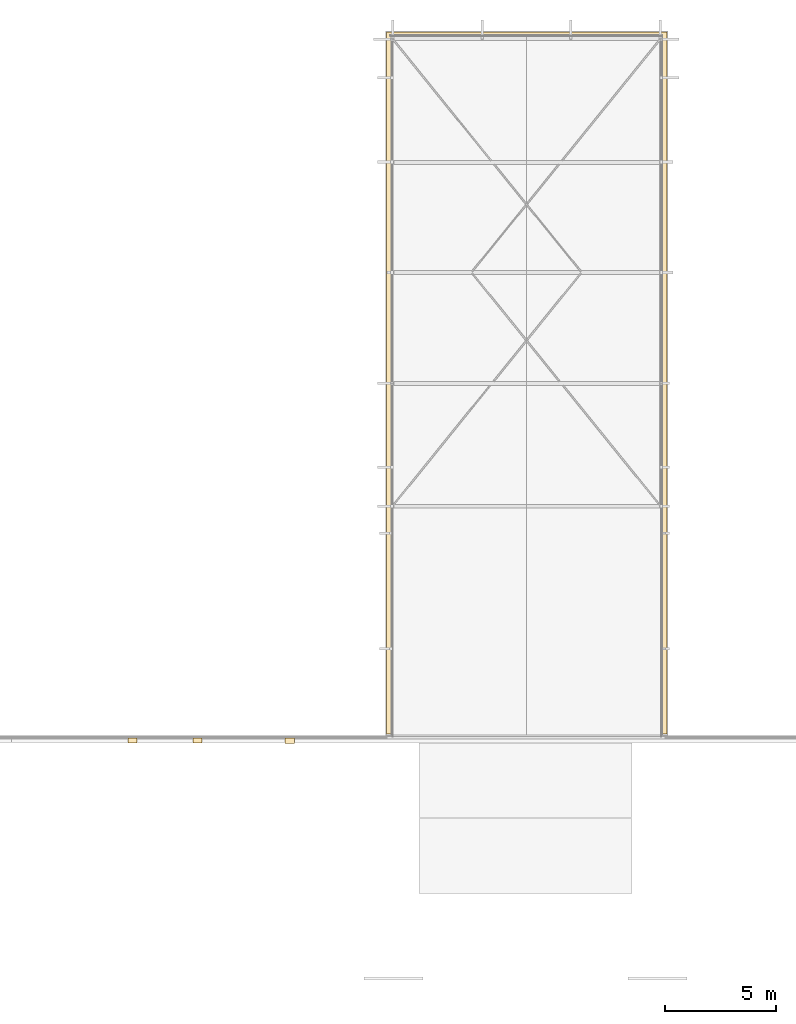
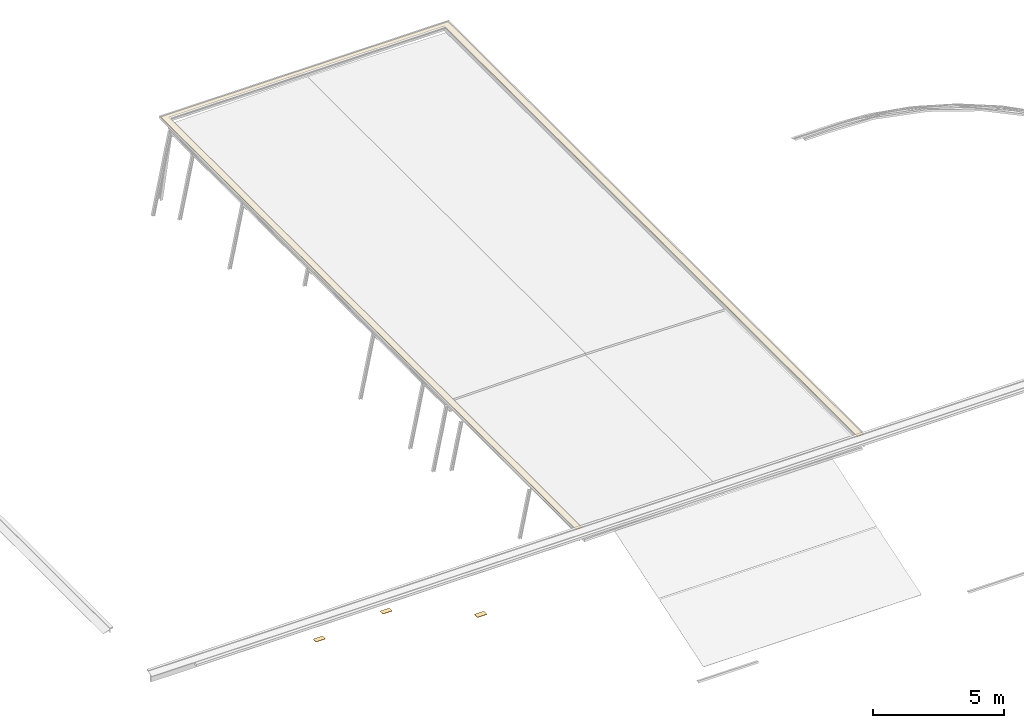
# One storey, part 5 of 5: 4 coverings.
"""IFC2X3 building model written with IfcOpenShell, lengths in millimetres."""

from ifc_helpers import new_model, entity, si_unit, converted_unit, derived_unit, direction, frame, frame_2d, origin, origin_2d_with_axis, place, context, subcontext, project, spatial, polyline, rectangle, outline, extrude, material, layer, layer_set, layer_usage, type_object, element, save


model = new_model("IFC2X3")

# Units and contexts
model_context = context("Model", 3, precision=0.01, world=origin(), true_north=direction((6.12303176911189e-17, 1.0)))
body_context = subcontext(model_context, "Body", "Model", "MODEL_VIEW")
ifc_project = project(units=[si_unit("LENGTHUNIT", "METRE", prefix="MILLI"), si_unit("AREAUNIT", "SQUARE_METRE"), si_unit("VOLUMEUNIT", "CUBIC_METRE"), converted_unit("PLANEANGLEUNIT", "DEGREE", entity("IfcRatioMeasure", 0.0174532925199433), si_unit("PLANEANGLEUNIT", "RADIAN"), dimensions=[0, 0, 0, 0, 0, 0, 0]), si_unit("MASSUNIT", "GRAM", prefix="KILO"), derived_unit("MASSDENSITYUNIT", [(si_unit("MASSUNIT", "GRAM", prefix="KILO"), 1), (si_unit("LENGTHUNIT", "METRE"), -3)]), derived_unit("MOMENTOFINERTIAUNIT", [(si_unit("LENGTHUNIT", "METRE"), 4)]), si_unit("TIMEUNIT", "SECOND"), si_unit("FREQUENCYUNIT", "HERTZ"), si_unit("THERMODYNAMICTEMPERATUREUNIT", "DEGREE_CELSIUS"), derived_unit("THERMALTRANSMITTANCEUNIT", [(si_unit("MASSUNIT", "GRAM", prefix="KILO"), 1), (si_unit("THERMODYNAMICTEMPERATUREUNIT", "KELVIN"), -1), (si_unit("TIMEUNIT", "SECOND"), -3)]), derived_unit("VOLUMETRICFLOWRATEUNIT", [(si_unit("LENGTHUNIT", "METRE"), 3), (si_unit("TIMEUNIT", "SECOND"), -1)]), si_unit("ELECTRICCURRENTUNIT", "AMPERE"), si_unit("ELECTRICVOLTAGEUNIT", "VOLT"), si_unit("POWERUNIT", "WATT"), si_unit("FORCEUNIT", "NEWTON", prefix="KILO"), si_unit("ILLUMINANCEUNIT", "LUX"), si_unit("LUMINOUSFLUXUNIT", "LUMEN"), si_unit("LUMINOUSINTENSITYUNIT", "CANDELA"), derived_unit("USERDEFINED", [(si_unit("MASSUNIT", "GRAM", prefix="KILO"), -1), (si_unit("LENGTHUNIT", "METRE"), -2), (si_unit("TIMEUNIT", "SECOND"), 3), (si_unit("LUMINOUSFLUXUNIT", "LUMEN"), 1)]), derived_unit("LINEARVELOCITYUNIT", [(si_unit("LENGTHUNIT", "METRE"), 1), (si_unit("TIMEUNIT", "SECOND"), -1)]), si_unit("PRESSUREUNIT", "PASCAL"), derived_unit("USERDEFINED", [(si_unit("LENGTHUNIT", "METRE"), -2), (si_unit("MASSUNIT", "GRAM", prefix="KILO"), 1), (si_unit("TIMEUNIT", "SECOND"), -2)]), derived_unit("LINEARFORCEUNIT", [(si_unit("MASSUNIT", "GRAM", prefix="KILO"), 1), (si_unit("LENGTHUNIT", "METRE"), 1), (si_unit("TIMEUNIT", "SECOND"), -2), (si_unit("LENGTHUNIT", "METRE"), -1)]), derived_unit("PLANARFORCEUNIT", [(si_unit("MASSUNIT", "GRAM", prefix="KILO"), 1), (si_unit("LENGTHUNIT", "METRE"), 1), (si_unit("TIMEUNIT", "SECOND"), -2), (si_unit("LENGTHUNIT", "METRE"), -2)])], contexts=[model_context])

# Site, building, storey
site_placement = place(None, origin())
site = spatial("IfcSite", under=ifc_project, at=site_placement, Name="Default", CompositionType="ELEMENT")
building_placement = place(site_placement, origin())
building = spatial("IfcBuilding", under=site, at=building_placement, Name="-", CompositionType="ELEMENT")
storey_placement = place(building_placement, frame((0.0, 0.0, 6070.0)))
storey = spatial("IfcBuildingStorey", under=building, at=storey_placement, Name="02 tweede verdieping", CompositionType="ELEMENT", Elevation=6070.00000000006)

# Coverings
ifc_material_1 = material(Name="NLRS_i4_hout_multiplex")
ifc_layer_1 = layer(ifc_material_1, 9.0)
ifc_layer_set_1 = layer_set([ifc_layer_1], Name="Floor:NLRS_44_FL_Multiplex 9mm")
ifc_layer_usage_1 = layer_usage(ifc_layer_set_1, "AXIS3", "POSITIVE", 0.0)
covering_type_1 = type_object("IfcCoveringType", Name="Floor:NLRS_44_FL_Multiplex 9mm", PredefinedType="FLOORING", material=ifc_layer_set_1)
covering_1_placement = place(storey_placement, origin())
element("IfcCovering", 1, at=covering_1_placement, inside=storey, type_object=covering_type_1, material=ifc_layer_usage_1, Name="Floor:NLRS_44_FL_Multiplex 9mm", ObjectType="Floor:NLRS_44_FL_Multiplex 9mm", PredefinedType="FLOORING", context=body_context, shape_type="SweptSolid", body=[
    extrude(outline(polyline([(-15822.4842662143, -6345.9518703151), (15911.7212600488, -6345.9518703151), (15911.7212600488, 6345.95187031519), (-15826.8731919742, 6345.95187031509), (-15826.8731919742, 6074.26048101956), (15737.6361981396, 6074.26048101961), (15737.6361981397, -6074.2604810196), (-15822.4842662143, -6074.2604810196), (-15822.4842662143, -6345.9518703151)])), frame((34797.1735418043, 26368.7738955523, 474.0), z_axis=(0.0, 0.0, -1.0), x_axis=(0.0, 1.0, 0.0)), (0.0, 0.0, 1.0), 9.00000000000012),
])
ifc_material_2 = material(Name="AL_Multiplex RAL 9002")
ifc_layer_2 = layer(ifc_material_2, 18.0)
ifc_layer_set_2 = layer_set([ifc_layer_2], Name="Floor:NLRS_44_Plaat 18 mm RAL 9002")
ifc_layer_usage_2 = layer_usage(ifc_layer_set_2, "AXIS3", "POSITIVE", 0.0)
covering_type_2 = type_object("IfcCoveringType", Name="Floor:NLRS_44_Plaat 18 mm RAL 9002", PredefinedType="FLOORING", material=ifc_layer_set_2)
covering_2_placement = place(storey_placement, origin())
element("IfcCovering", 2, at=covering_2_placement, inside=storey, type_object=covering_type_2, material=ifc_layer_usage_2, Name="Floor:NLRS_44_Plaat 18 mm RAL 9002", ObjectType="Floor:NLRS_44_Plaat 18 mm RAL 9002", PredefinedType="FLOORING", context=body_context, shape_type="SweptSolid", body=[
    extrude(rectangle(XDim=220.0, YDim=414.000000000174, at=frame_2d((1.08002495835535e-12, 0.0), x_axis=(1.0, 0.0))), frame((19911.6948343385, 10247.1240954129, -155.0), z_axis=(0.0, 0.0, -1.0), x_axis=(0.0, 1.0, 0.0)), (0.0, 0.0, 1.0), 18.0000000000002),
])
ifc_layer_usage_3 = layer_usage(ifc_layer_set_2, "AXIS3", "POSITIVE", 0.0)
covering_type_3 = type_object("IfcCoveringType", Name="Floor:NLRS_44_Plaat 18 mm RAL 9002", PredefinedType="FLOORING", material=ifc_layer_set_2)
covering_3_placement = place(storey_placement, origin())
element("IfcCovering", 3, at=covering_3_placement, inside=storey, type_object=covering_type_3, material=ifc_layer_usage_3, Name="Floor:NLRS_44_Plaat 18 mm RAL 9002", ObjectType="Floor:NLRS_44_Plaat 18 mm RAL 9002", PredefinedType="FLOORING", context=body_context, shape_type="SweptSolid", body=[
    extrude(rectangle(XDim=220.0, YDim=414.000000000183, at=frame_2d((-1.08002495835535e-12, 0.0), x_axis=(1.0, 0.0))), frame((16965.0, 10247.1240954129, -428.0), z_axis=(0.0, 0.0, -1.0), x_axis=(0.0, 1.0, 0.0)), (0.0, 0.0, 1.0), 18.0000000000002),
])
ifc_layer_usage_4 = layer_usage(ifc_layer_set_2, "AXIS3", "POSITIVE", 0.0)
covering_type_4 = type_object("IfcCoveringType", Name="Floor:NLRS_44_Plaat 18 mm RAL 9002", PredefinedType="FLOORING", material=ifc_layer_set_2)
covering_4_placement = place(storey_placement, origin())
element("IfcCovering", 4, at=covering_4_placement, inside=storey, type_object=covering_type_4, material=ifc_layer_usage_4, Name="Floor:NLRS_44_Plaat 18 mm RAL 9002", ObjectType="Floor:NLRS_44_Plaat 18 mm RAL 9002", PredefinedType="FLOORING", context=body_context, shape_type="SweptSolid", body=[
    extrude(rectangle(XDim=235.999999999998, YDim=414.000000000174, at=origin_2d_with_axis()), frame((24080.0, 10239.1240954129, -1766.0), z_axis=(0.0, 0.0, -1.0), x_axis=(0.0, 1.0, 0.0)), (0.0, 0.0, 1.0), 18.0000000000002),
])

save(model, "model.ifc")
